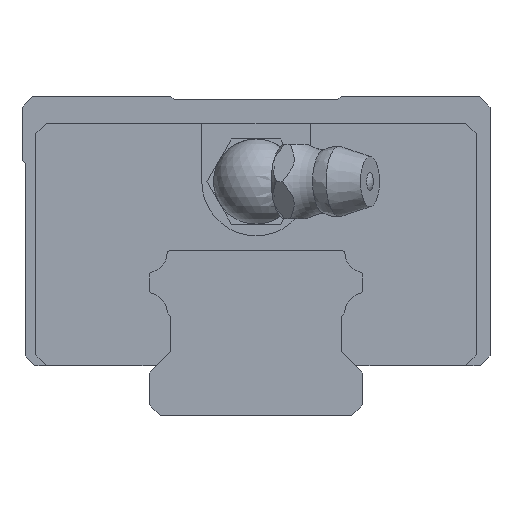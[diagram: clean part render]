
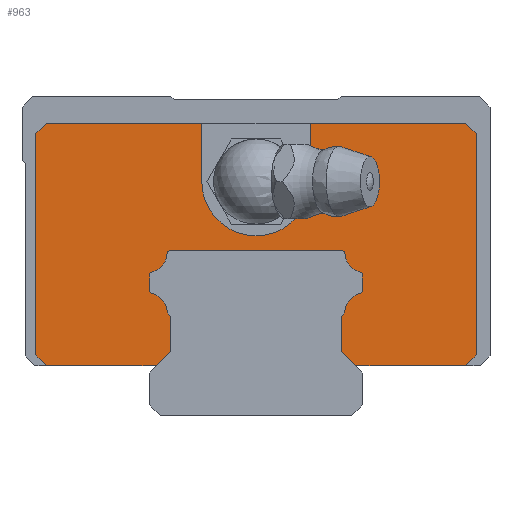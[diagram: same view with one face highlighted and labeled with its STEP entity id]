
A CAD part, front view. The second image highlights one B-rep face of the part: STEP entity #963.
In plain terms, the highlighted planar face has unit normal (0, -1, 0).
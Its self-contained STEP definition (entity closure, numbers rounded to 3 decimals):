
#375=FACE_OUTER_BOUND('',#1344,.T.);
#489=LINE('',#4121,#727);
#491=LINE('',#4126,#729);
#505=LINE('',#4155,#743);
#506=LINE('',#4157,#744);
#507=LINE('',#4160,#745);
#508=LINE('',#4166,#746);
#509=LINE('',#4174,#747);
#510=LINE('',#4182,#748);
#511=LINE('',#4188,#749);
#512=LINE('',#4190,#750);
#513=LINE('',#4192,#751);
#514=LINE('',#4193,#752);
#515=LINE('',#4194,#753);
#516=LINE('',#4196,#754);
#517=LINE('',#4198,#755);
#518=LINE('',#4202,#756);
#519=LINE('',#4204,#757);
#520=LINE('',#4206,#758);
#521=LINE('',#4208,#759);
#522=LINE('',#4210,#760);
#523=LINE('',#4211,#761);
#727=VECTOR('',#3328,1.);
#729=VECTOR('',#3332,1.);
#743=VECTOR('',#3348,1.);
#744=VECTOR('',#3351,1.);
#745=VECTOR('',#3352,1.);
#746=VECTOR('',#3357,1.);
#747=VECTOR('',#3364,1.);
#748=VECTOR('',#3371,1.);
#749=VECTOR('',#3376,1.);
#750=VECTOR('',#3377,1.);
#751=VECTOR('',#3378,1.);
#752=VECTOR('',#3379,1.);
#753=VECTOR('',#3380,1.);
#754=VECTOR('',#3381,1.);
#755=VECTOR('',#3382,1.);
#756=VECTOR('',#3385,1.);
#757=VECTOR('',#3386,1.);
#758=VECTOR('',#3387,1.);
#759=VECTOR('',#3388,1.);
#760=VECTOR('',#3389,1.);
#761=VECTOR('',#3390,1.);
#963=ADVANCED_FACE('',(#375),#1127,.T.);
#1127=PLANE('',#3053);
#1344=EDGE_LOOP('',(#1585,#1586,#1587,#1588,#1589,#1590,#1591,#1592,#1593,
#1594,#1595,#1596,#1597,#1598,#1599,#1600,#1601,#1602,#1603,#1604,#1605,
#1606,#1607,#1608,#1609,#1610,#1611,#1612,#1613,#1614,#1615,#1616));
#1585=ORIENTED_EDGE('',*,*,#2583,.F.);
#1586=ORIENTED_EDGE('',*,*,#2584,.F.);
#1587=ORIENTED_EDGE('',*,*,#2585,.F.);
#1588=ORIENTED_EDGE('',*,*,#2586,.F.);
#1589=ORIENTED_EDGE('',*,*,#2587,.F.);
#1590=ORIENTED_EDGE('',*,*,#2588,.F.);
#1591=ORIENTED_EDGE('',*,*,#2589,.F.);
#1592=ORIENTED_EDGE('',*,*,#2590,.F.);
#1593=ORIENTED_EDGE('',*,*,#2591,.F.);
#1594=ORIENTED_EDGE('',*,*,#2592,.F.);
#1595=ORIENTED_EDGE('',*,*,#2593,.F.);
#1596=ORIENTED_EDGE('',*,*,#2594,.F.);
#1597=ORIENTED_EDGE('',*,*,#2595,.F.);
#1598=ORIENTED_EDGE('',*,*,#2596,.F.);
#1599=ORIENTED_EDGE('',*,*,#2597,.F.);
#1600=ORIENTED_EDGE('',*,*,#2598,.F.);
#1601=ORIENTED_EDGE('',*,*,#2599,.F.);
#1602=ORIENTED_EDGE('',*,*,#2600,.F.);
#1603=ORIENTED_EDGE('',*,*,#2582,.F.);
#1604=ORIENTED_EDGE('',*,*,#2601,.F.);
#1605=ORIENTED_EDGE('',*,*,#2566,.F.);
#1606=ORIENTED_EDGE('',*,*,#2602,.F.);
#1607=ORIENTED_EDGE('',*,*,#2603,.F.);
#1608=ORIENTED_EDGE('',*,*,#2604,.T.);
#1609=ORIENTED_EDGE('',*,*,#2605,.T.);
#1610=ORIENTED_EDGE('',*,*,#2606,.T.);
#1611=ORIENTED_EDGE('',*,*,#2607,.F.);
#1612=ORIENTED_EDGE('',*,*,#2608,.F.);
#1613=ORIENTED_EDGE('',*,*,#2609,.F.);
#1614=ORIENTED_EDGE('',*,*,#2610,.F.);
#1615=ORIENTED_EDGE('',*,*,#2568,.F.);
#1616=ORIENTED_EDGE('',*,*,#2611,.F.);
#2300=VERTEX_POINT('',#4116);
#2302=VERTEX_POINT('',#4120);
#2304=VERTEX_POINT('',#4125);
#2305=VERTEX_POINT('',#4127);
#2311=VERTEX_POINT('',#4141);
#2318=VERTEX_POINT('',#4154);
#2319=VERTEX_POINT('',#4158);
#2320=VERTEX_POINT('',#4159);
#2321=VERTEX_POINT('',#4161);
#2322=VERTEX_POINT('',#4163);
#2323=VERTEX_POINT('',#4165);
#2324=VERTEX_POINT('',#4167);
#2325=VERTEX_POINT('',#4169);
#2326=VERTEX_POINT('',#4171);
#2327=VERTEX_POINT('',#4173);
#2328=VERTEX_POINT('',#4175);
#2329=VERTEX_POINT('',#4177);
#2330=VERTEX_POINT('',#4179);
#2331=VERTEX_POINT('',#4181);
#2332=VERTEX_POINT('',#4183);
#2333=VERTEX_POINT('',#4185);
#2334=VERTEX_POINT('',#4187);
#2335=VERTEX_POINT('',#4189);
#2336=VERTEX_POINT('',#4191);
#2337=VERTEX_POINT('',#4195);
#2338=VERTEX_POINT('',#4197);
#2339=VERTEX_POINT('',#4199);
#2340=VERTEX_POINT('',#4201);
#2341=VERTEX_POINT('',#4203);
#2342=VERTEX_POINT('',#4205);
#2343=VERTEX_POINT('',#4207);
#2344=VERTEX_POINT('',#4209);
#2566=EDGE_CURVE('',#2302,#2300,#489,.T.);
#2568=EDGE_CURVE('',#2304,#2305,#491,.T.);
#2582=EDGE_CURVE('',#2318,#2311,#505,.T.);
#2583=EDGE_CURVE('',#2319,#2320,#506,.T.);
#2584=EDGE_CURVE('',#2321,#2319,#507,.T.);
#2585=EDGE_CURVE('',#2322,#2321,#2926,.T.);
#2586=EDGE_CURVE('',#2323,#2322,#2927,.T.);
#2587=EDGE_CURVE('',#2324,#2323,#508,.T.);
#2588=EDGE_CURVE('',#2325,#2324,#2928,.T.);
#2589=EDGE_CURVE('',#2326,#2325,#2929,.T.);
#2590=EDGE_CURVE('',#2327,#2326,#2930,.T.);
#2591=EDGE_CURVE('',#2328,#2327,#509,.T.);
#2592=EDGE_CURVE('',#2329,#2328,#2931,.T.);
#2593=EDGE_CURVE('',#2330,#2329,#2932,.T.);
#2594=EDGE_CURVE('',#2331,#2330,#2933,.T.);
#2595=EDGE_CURVE('',#2332,#2331,#510,.T.);
#2596=EDGE_CURVE('',#2333,#2332,#2934,.T.);
#2597=EDGE_CURVE('',#2334,#2333,#2935,.T.);
#2598=EDGE_CURVE('',#2335,#2334,#511,.T.);
#2599=EDGE_CURVE('',#2336,#2335,#512,.T.);
#2600=EDGE_CURVE('',#2311,#2336,#513,.T.);
#2601=EDGE_CURVE('',#2300,#2318,#514,.T.);
#2602=EDGE_CURVE('',#2337,#2302,#515,.T.);
#2603=EDGE_CURVE('',#2338,#2337,#516,.T.);
#2604=EDGE_CURVE('',#2338,#2339,#517,.T.);
#2605=EDGE_CURVE('',#2339,#2340,#2936,.T.);
#2606=EDGE_CURVE('',#2340,#2341,#518,.T.);
#2607=EDGE_CURVE('',#2342,#2341,#519,.T.);
#2608=EDGE_CURVE('',#2343,#2342,#520,.T.);
#2609=EDGE_CURVE('',#2344,#2343,#521,.T.);
#2610=EDGE_CURVE('',#2305,#2344,#522,.T.);
#2611=EDGE_CURVE('',#2320,#2304,#523,.T.);
#2926=CIRCLE('',#3042,1.9);
#2927=CIRCLE('',#3043,0.3);
#2928=CIRCLE('',#3044,0.3);
#2929=CIRCLE('',#3045,1.9);
#2930=CIRCLE('',#3046,0.3);
#2931=CIRCLE('',#3047,0.3);
#2932=CIRCLE('',#3048,1.9);
#2933=CIRCLE('',#3049,0.3);
#2934=CIRCLE('',#3050,0.3);
#2935=CIRCLE('',#3051,1.9);
#2936=CIRCLE('',#3052,5.1);
#3042=AXIS2_PLACEMENT_3D('',#4162,#3353,#3354);
#3043=AXIS2_PLACEMENT_3D('',#4164,#3355,#3356);
#3044=AXIS2_PLACEMENT_3D('',#4168,#3358,#3359);
#3045=AXIS2_PLACEMENT_3D('',#4170,#3360,#3361);
#3046=AXIS2_PLACEMENT_3D('',#4172,#3362,#3363);
#3047=AXIS2_PLACEMENT_3D('',#4176,#3365,#3366);
#3048=AXIS2_PLACEMENT_3D('',#4178,#3367,#3368);
#3049=AXIS2_PLACEMENT_3D('',#4180,#3369,#3370);
#3050=AXIS2_PLACEMENT_3D('',#4184,#3372,#3373);
#3051=AXIS2_PLACEMENT_3D('',#4186,#3374,#3375);
#3052=AXIS2_PLACEMENT_3D('',#4200,#3383,#3384);
#3053=AXIS2_PLACEMENT_3D('',#4212,#3391,#3392);
#3328=DIRECTION('',(0.,0.,-1.));
#3332=DIRECTION('',(-1.,0.,0.));
#3348=DIRECTION('',(-1.,0.,0.));
#3351=DIRECTION('',(0.,0.,-1.));
#3352=DIRECTION('',(0.707,0.,-0.707));
#3353=DIRECTION('',(0.,1.,0.));
#3354=DIRECTION('',(0.,0.,-1.));
#3355=DIRECTION('',(0.,-1.,0.));
#3356=DIRECTION('',(0.,0.,-1.));
#3357=DIRECTION('',(0.,0.,-1.));
#3358=DIRECTION('',(0.,-1.,0.));
#3359=DIRECTION('',(0.,0.,-1.));
#3360=DIRECTION('',(0.,1.,0.));
#3361=DIRECTION('',(0.,0.,-1.));
#3362=DIRECTION('',(0.,-1.,0.));
#3363=DIRECTION('',(0.,0.,-1.));
#3364=DIRECTION('',(-1.,0.,0.));
#3365=DIRECTION('',(0.,-1.,0.));
#3366=DIRECTION('',(0.,0.,-1.));
#3367=DIRECTION('',(0.,1.,0.));
#3368=DIRECTION('',(0.,0.,-1.));
#3369=DIRECTION('',(0.,-1.,0.));
#3370=DIRECTION('',(0.,0.,-1.));
#3371=DIRECTION('',(0.,0.,1.));
#3372=DIRECTION('',(0.,-1.,0.));
#3373=DIRECTION('',(0.,0.,-1.));
#3374=DIRECTION('',(0.,1.,0.));
#3375=DIRECTION('',(0.,0.,-1.));
#3376=DIRECTION('',(0.707,0.,0.707));
#3377=DIRECTION('',(0.,0.,1.));
#3378=DIRECTION('',(-0.707,0.,0.707));
#3379=DIRECTION('',(-0.707,0.,-0.707));
#3380=DIRECTION('',(0.707,0.,-0.707));
#3381=DIRECTION('',(1.,0.,0.));
#3382=DIRECTION('',(0.,0.,-1.));
#3383=DIRECTION('',(0.,1.,0.));
#3384=DIRECTION('',(-1.,0.,0.));
#3385=DIRECTION('',(0.,0.,1.));
#3386=DIRECTION('',(1.,0.,0.));
#3387=DIRECTION('',(0.707,0.,0.707));
#3388=DIRECTION('',(0.,0.,1.));
#3389=DIRECTION('',(-0.707,0.,0.707));
#3390=DIRECTION('',(-0.707,0.,-0.707));
#3391=DIRECTION('',(0.,-1.,0.));
#3392=DIRECTION('',(0.,0.,-1.));
#4116=CARTESIAN_POINT('',(20.7,-10.1,5.7));
#4120=CARTESIAN_POINT('',(20.7,-10.1,26.5));
#4121=CARTESIAN_POINT('',(20.7,-10.1,26.5));
#4125=CARTESIAN_POINT('',(-9.3,-10.1,4.7));
#4126=CARTESIAN_POINT('',(19.7,-10.1,4.7));
#4127=CARTESIAN_POINT('',(-19.7,-10.1,4.7));
#4141=CARTESIAN_POINT('',(9.3,-10.1,4.7));
#4154=CARTESIAN_POINT('',(19.7,-10.1,4.7));
#4155=CARTESIAN_POINT('',(19.7,-10.1,4.7));
#4157=CARTESIAN_POINT('',(-8.,-10.1,22.));
#4158=CARTESIAN_POINT('',(-8.,-10.1,9.3));
#4159=CARTESIAN_POINT('',(-8.,-10.1,6.));
#4160=CARTESIAN_POINT('',(-10.35,-10.1,11.65));
#4161=CARTESIAN_POINT('',(-8.349,-10.1,9.649));
#4162=CARTESIAN_POINT('',(-10.249,-10.1,9.651));
#4163=CARTESIAN_POINT('',(-9.775,-10.1,11.49));
#4164=CARTESIAN_POINT('',(-9.7,-10.1,11.781));
#4165=CARTESIAN_POINT('',(-10.,-10.1,11.781));
#4166=CARTESIAN_POINT('',(-10.,-10.1,22.));
#4167=CARTESIAN_POINT('',(-10.,-10.1,13.219));
#4168=CARTESIAN_POINT('',(-9.7,-10.1,13.219));
#4169=CARTESIAN_POINT('',(-9.775,-10.1,13.51));
#4170=CARTESIAN_POINT('',(-10.249,-10.1,15.349));
#4171=CARTESIAN_POINT('',(-8.354,-10.1,15.22));
#4172=CARTESIAN_POINT('',(-8.055,-10.1,15.2));
#4173=CARTESIAN_POINT('',(-8.055,-10.1,15.5));
#4174=CARTESIAN_POINT('',(0.,-10.1,15.5));
#4175=CARTESIAN_POINT('',(8.055,-10.1,15.5));
#4176=CARTESIAN_POINT('',(8.055,-10.1,15.2));
#4177=CARTESIAN_POINT('',(8.354,-10.1,15.22));
#4178=CARTESIAN_POINT('',(10.249,-10.1,15.349));
#4179=CARTESIAN_POINT('',(9.775,-10.1,13.51));
#4180=CARTESIAN_POINT('',(9.7,-10.1,13.219));
#4181=CARTESIAN_POINT('',(10.,-10.1,13.219));
#4182=CARTESIAN_POINT('',(10.,-10.1,22.));
#4183=CARTESIAN_POINT('',(10.,-10.1,11.781));
#4184=CARTESIAN_POINT('',(9.7,-10.1,11.781));
#4185=CARTESIAN_POINT('',(9.775,-10.1,11.49));
#4186=CARTESIAN_POINT('',(10.249,-10.1,9.651));
#4187=CARTESIAN_POINT('',(8.349,-10.1,9.649));
#4188=CARTESIAN_POINT('',(10.35,-10.1,11.65));
#4189=CARTESIAN_POINT('',(8.,-10.1,9.3));
#4190=CARTESIAN_POINT('',(8.,-10.1,22.));
#4191=CARTESIAN_POINT('',(8.,-10.1,6.));
#4192=CARTESIAN_POINT('',(-4.,-10.1,18.));
#4193=CARTESIAN_POINT('',(20.7,-10.1,5.7));
#4194=CARTESIAN_POINT('',(19.7,-10.1,27.5));
#4195=CARTESIAN_POINT('',(19.7,-10.1,27.5));
#4196=CARTESIAN_POINT('',(-19.7,-10.1,27.5));
#4197=CARTESIAN_POINT('',(5.1,-10.1,27.5));
#4198=CARTESIAN_POINT('',(5.1,-10.1,27.5));
#4199=CARTESIAN_POINT('',(5.1,-10.1,22.));
#4200=CARTESIAN_POINT('',(0.,-10.1,22.));
#4201=CARTESIAN_POINT('',(-5.1,-10.1,22.));
#4202=CARTESIAN_POINT('',(-5.1,-10.1,22.));
#4203=CARTESIAN_POINT('',(-5.1,-10.1,27.5));
#4204=CARTESIAN_POINT('',(-19.7,-10.1,27.5));
#4205=CARTESIAN_POINT('',(-19.7,-10.1,27.5));
#4206=CARTESIAN_POINT('',(-20.7,-10.1,26.5));
#4207=CARTESIAN_POINT('',(-20.7,-10.1,26.5));
#4208=CARTESIAN_POINT('',(-20.7,-10.1,5.7));
#4209=CARTESIAN_POINT('',(-20.7,-10.1,5.7));
#4210=CARTESIAN_POINT('',(-19.7,-10.1,4.7));
#4211=CARTESIAN_POINT('',(4.,-10.1,18.));
#4212=CARTESIAN_POINT('',(0.,-10.1,22.));
